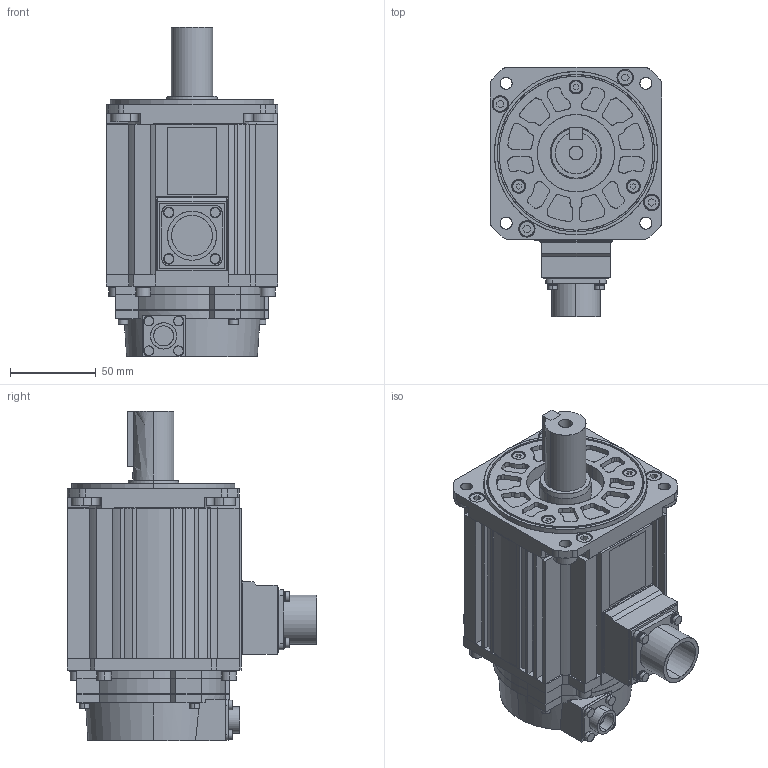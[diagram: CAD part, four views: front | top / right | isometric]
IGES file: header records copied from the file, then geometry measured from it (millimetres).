
Start section: SolidWorks IGES file using analytic representation for surfaces
Global section: file name: C:\YASKAWA\sgmsv_10__a61.IGS; native system: SolidWorks 2006 by SolidWorks Corporation; preprocessor: SolidWorks 2006 by SolidWorks Corporation; author: yamanouchi; date: 090922.091602; units: millimetre
Bounding box: 100 x 144.99 x 191.6 mm (x, y, z)
Surface area: 121354 mm2 (no closed solid volume)
Topology: 0 solids, 0 shells, 822 faces, 10141 edges, 10141 vertices
Faces by surface type: bspline 459, revolution 363
